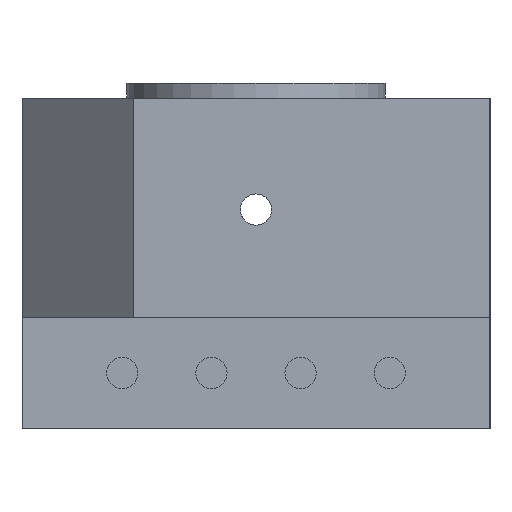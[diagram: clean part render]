
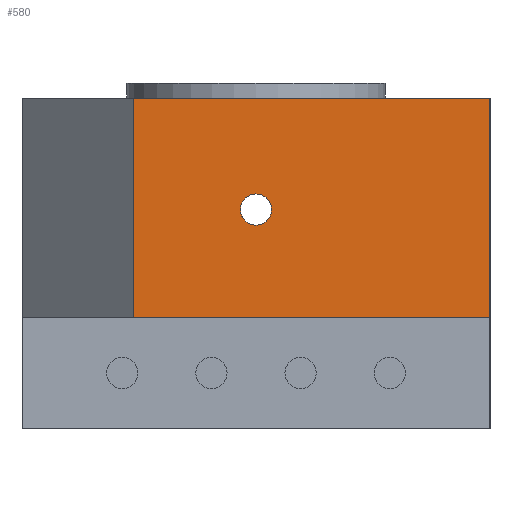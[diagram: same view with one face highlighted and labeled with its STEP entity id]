
A CAD part, left-side view. The second image highlights one B-rep face of the part: STEP entity #580.
In plain terms, the highlighted planar face has unit normal (-1, 0, 0).
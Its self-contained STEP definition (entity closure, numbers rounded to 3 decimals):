
#24=FACE_BOUND('',#123,.T.);
#51=PLANE('',#652);
#83=FACE_OUTER_BOUND('',#122,.T.);
#122=EDGE_LOOP('',(#461,#462,#463,#464));
#123=EDGE_LOOP('',(#465));
#168=LINE('',#932,#213);
#172=LINE('',#939,#217);
#173=LINE('',#942,#218);
#174=LINE('',#943,#219);
#213=VECTOR('',#777,10.);
#217=VECTOR('',#783,10.);
#218=VECTOR('',#786,10.);
#219=VECTOR('',#787,10.);
#261=CIRCLE('',#653,2.1);
#293=VERTEX_POINT('',#929);
#294=VERTEX_POINT('',#931);
#296=VERTEX_POINT('',#937);
#297=VERTEX_POINT('',#941);
#298=VERTEX_POINT('',#944);
#356=EDGE_CURVE('',#293,#294,#168,.T.);
#360=EDGE_CURVE('',#296,#293,#172,.T.);
#361=EDGE_CURVE('',#297,#296,#173,.T.);
#362=EDGE_CURVE('',#297,#294,#174,.T.);
#363=EDGE_CURVE('',#298,#298,#261,.T.);
#461=ORIENTED_EDGE('',*,*,#360,.F.);
#462=ORIENTED_EDGE('',*,*,#361,.F.);
#463=ORIENTED_EDGE('',*,*,#362,.T.);
#464=ORIENTED_EDGE('',*,*,#356,.F.);
#465=ORIENTED_EDGE('',*,*,#363,.T.);
#580=ADVANCED_FACE('',(#83,#24),#51,.T.);
#652=AXIS2_PLACEMENT_3D('',#940,#784,#785);
#653=AXIS2_PLACEMENT_3D('',#945,#788,#789);
#777=DIRECTION('',(0.,-1.,0.));
#783=DIRECTION('',(0.,0.,1.));
#784=DIRECTION('center_axis',(-1.,0.,0.));
#785=DIRECTION('ref_axis',(0.,-1.,0.));
#786=DIRECTION('',(0.,1.,0.));
#787=DIRECTION('',(0.,0.,1.));
#788=DIRECTION('center_axis',(1.,0.,0.));
#789=DIRECTION('ref_axis',(0.,0.,1.));
#929=CARTESIAN_POINT('',(33.6,48.,29.5));
#931=CARTESIAN_POINT('',(33.6,0.,29.5));
#932=CARTESIAN_POINT('',(33.6,0.,29.5));
#937=CARTESIAN_POINT('',(33.6,48.,0.));
#939=CARTESIAN_POINT('',(33.6,48.,0.));
#940=CARTESIAN_POINT('Origin',(33.6,63.,0.));
#941=CARTESIAN_POINT('',(33.6,0.,0.));
#942=CARTESIAN_POINT('',(33.6,47.25,0.));
#943=CARTESIAN_POINT('',(33.6,0.,0.));
#944=CARTESIAN_POINT('',(33.6,31.5,12.4));
#945=CARTESIAN_POINT('Origin',(33.6,31.5,14.5));
